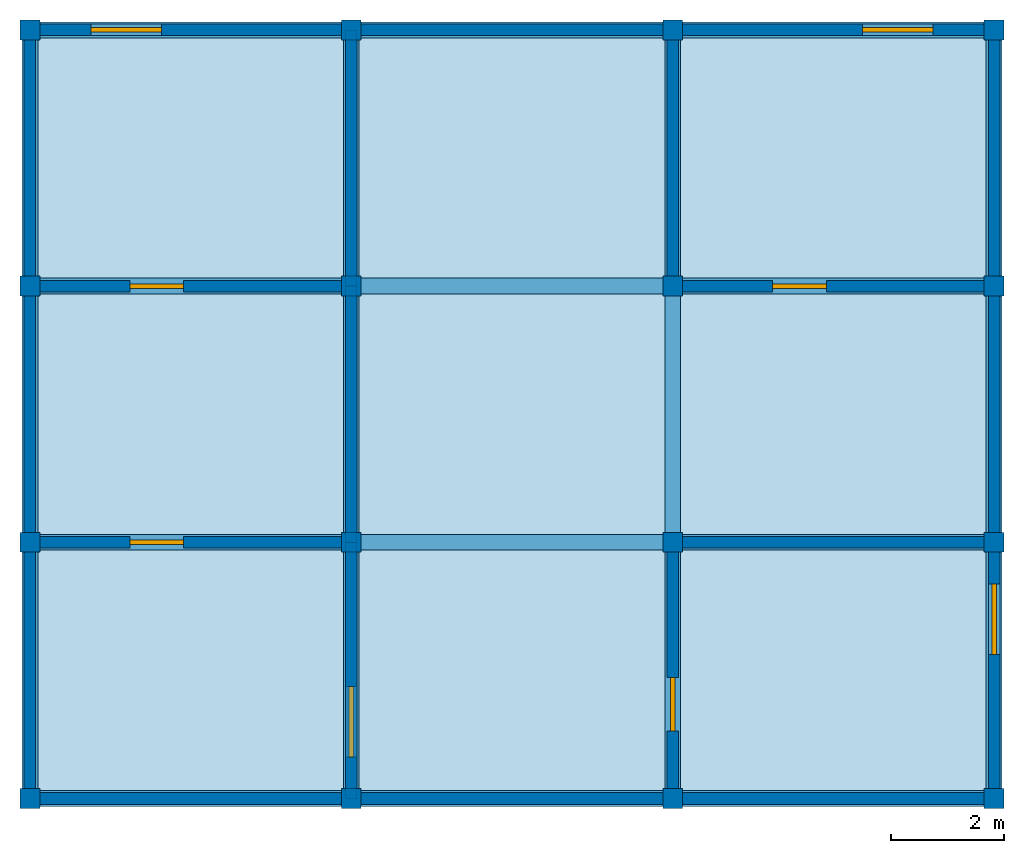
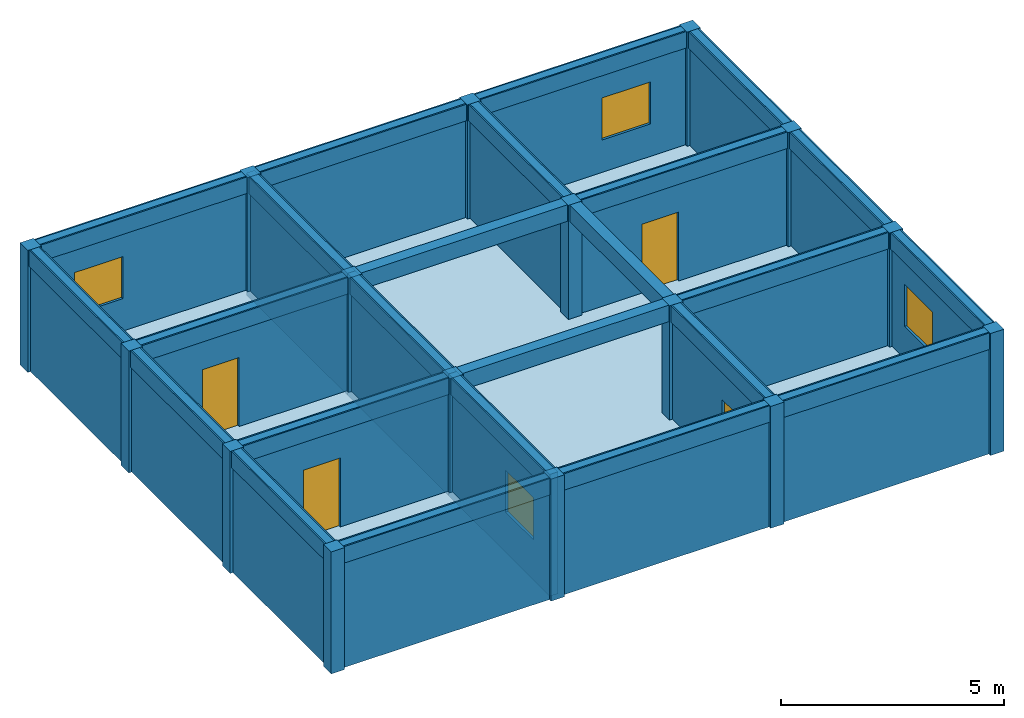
# One storey: 24 beams, 24 walls, 16 columns, 4 doors, 4 windows, 1 slab, 8 openings.
"""IFC4X3 building model written with IfcOpenShell, lengths in metres."""

from ifc_helpers import new_model, si_unit, frame, origin_with_axes, origin_2d, place, context, project, spatial, rectangle, extrude, material, element, fill, save


model = new_model("IFC4X3")

# Units and contexts
model_context = context("Model", 3, precision=1e-05, world=origin_with_axes())
ifc_project = project(units=[si_unit("LENGTHUNIT", "METRE"), si_unit("AREAUNIT", "SQUARE_METRE"), si_unit("VOLUMEUNIT", "CUBIC_METRE")], contexts=[model_context])

# Site, building, storey
site = spatial("IfcSite", under=ifc_project, Name="Valdivia Parcel", CompositionType="ELEMENT")
building = spatial("IfcBuilding", under=site, Name="Strata Block", CompositionType="ELEMENT")
storey = spatial("IfcBuildingStorey", under=building, Name="Level 2", CompositionType="ELEMENT", Elevation=3.33)

# Columns
ifc_material_1 = material(Name="Timber")
column_1_placement = place(None, frame((-8.525, -6.795, 3.335), z_axis=(0.0, 0.0, 1.0), x_axis=(1.0, 0.0, 0.0)))
element("IfcColumn", 1, at=column_1_placement, inside=storey, material=ifc_material_1, Name="Column 2.1", ObjectType="Corner Column", PredefinedType="COLUMN", context=model_context, shape_type="SweptSolid", body=[
    extrude(rectangle(XDim=0.35, YDim=0.35, at=origin_2d()), origin_with_axes(), (0.0, 0.0, 1.0), 3.335),
])
column_2_placement = place(None, frame((-8.525, -2.265, 3.335), z_axis=(0.0, 0.0, 1.0), x_axis=(1.0, 0.0, 0.0)))
element("IfcColumn", 2, at=column_2_placement, inside=storey, material=ifc_material_1, Name="Column 2.2", ObjectType="Facade Column", PredefinedType="COLUMN", context=model_context, shape_type="SweptSolid", body=[
    extrude(rectangle(XDim=0.35, YDim=0.35, at=origin_2d()), origin_with_axes(), (0.0, 0.0, 1.0), 3.335),
])
column_3_placement = place(None, frame((-8.525, 2.265, 3.335), z_axis=(0.0, 0.0, 1.0), x_axis=(1.0, 0.0, 0.0)))
element("IfcColumn", 3, at=column_3_placement, inside=storey, material=ifc_material_1, Name="Column 2.3", ObjectType="Structural Column", PredefinedType="NOTDEFINED", context=model_context, shape_type="SweptSolid", body=[
    extrude(rectangle(XDim=0.35, YDim=0.35, at=origin_2d()), origin_with_axes(), (0.0, 0.0, 1.0), 3.335),
])
column_4_placement = place(None, frame((-8.525, 6.795, 3.335), z_axis=(0.0, 0.0, 1.0), x_axis=(1.0, 0.0, 0.0)))
element("IfcColumn", 4, at=column_4_placement, inside=storey, material=ifc_material_1, Name="Column 2.4", ObjectType="Corner Column", PredefinedType="COLUMN", context=model_context, shape_type="SweptSolid", body=[
    extrude(rectangle(XDim=0.35, YDim=0.35, at=origin_2d()), origin_with_axes(), (0.0, 0.0, 1.0), 3.335),
])
for number, where, z_axis, x_axis, name in (
    (5, (-2.842, -6.795, 3.335), (0.0, 0.0, 1.0), (1.0, 0.0, 0.0), "Column 2.5"),
    (6, (-2.842, -2.265, 3.335), (0.0, 0.0, 1.0), (1.0, 0.0, 0.0), "Column 2.6"),
):
    element("IfcColumn", number, at=place(None, frame(where, z_axis=z_axis, x_axis=x_axis)), inside=storey, material=ifc_material_1, Name=name, ObjectType="Facade Column", PredefinedType="USERDEFINED", context=model_context, shape_type="SweptSolid", body=[
        extrude(rectangle(XDim=0.35, YDim=0.35, at=origin_2d()), origin_with_axes(), (0.0, 0.0, 1.0), 3.335),
    ])
column_5_placement = place(None, frame((-2.842, 2.265, 3.335), z_axis=(0.0, 0.0, 1.0), x_axis=(1.0, 0.0, 0.0)))
element("IfcColumn", 7, at=column_5_placement, inside=storey, material=ifc_material_1, Name="Column 2.7", ObjectType="Facade Column", PredefinedType="NOTDEFINED", context=model_context, shape_type="SweptSolid", body=[
    extrude(rectangle(XDim=0.35, YDim=0.35, at=origin_2d()), origin_with_axes(), (0.0, 0.0, 1.0), 3.335),
])
column_6_placement = place(None, frame((-2.842, 6.795, 3.335), z_axis=(0.0, 0.0, 1.0), x_axis=(1.0, 0.0, 0.0)))
element("IfcColumn", 8, at=column_6_placement, inside=storey, material=ifc_material_1, Name="Column 2.8", ObjectType="Corner Column", PredefinedType="PILASTER", context=model_context, shape_type="SweptSolid", body=[
    extrude(rectangle(XDim=0.35, YDim=0.35, at=origin_2d()), origin_with_axes(), (0.0, 0.0, 1.0), 3.335),
])
column_7_placement = place(None, frame((2.841, -6.795, 3.335), z_axis=(0.0, 0.0, 1.0), x_axis=(1.0, 0.0, 0.0)))
element("IfcColumn", 9, at=column_7_placement, inside=storey, material=ifc_material_1, Name="Column 2.9", ObjectType="Core Column", PredefinedType="PILASTER", context=model_context, shape_type="SweptSolid", body=[
    extrude(rectangle(XDim=0.35, YDim=0.35, at=origin_2d()), origin_with_axes(), (0.0, 0.0, 1.0), 3.335),
])
column_8_placement = place(None, frame((2.841, -2.265, 3.335), z_axis=(0.0, 0.0, 1.0), x_axis=(1.0, 0.0, 0.0)))
element("IfcColumn", 10, at=column_8_placement, inside=storey, material=ifc_material_1, Name="Column 2.10", ObjectType="Core Column", PredefinedType="USERDEFINED", context=model_context, shape_type="SweptSolid", body=[
    extrude(rectangle(XDim=0.35, YDim=0.35, at=origin_2d()), origin_with_axes(), (0.0, 0.0, 1.0), 3.335),
])
column_9_placement = place(None, frame((2.841, 2.265, 3.335), z_axis=(0.0, 0.0, 1.0), x_axis=(1.0, 0.0, 0.0)))
element("IfcColumn", 11, at=column_9_placement, inside=storey, material=ifc_material_1, Name="Column 2.11", ObjectType="Facade Column", PredefinedType="USERDEFINED", context=model_context, shape_type="SweptSolid", body=[
    extrude(rectangle(XDim=0.35, YDim=0.35, at=origin_2d()), origin_with_axes(), (0.0, 0.0, 1.0), 3.335),
])
column_10_placement = place(None, frame((2.841, 6.795, 3.335), z_axis=(0.0, 0.0, 1.0), x_axis=(1.0, 0.0, 0.0)))
element("IfcColumn", 12, at=column_10_placement, inside=storey, material=ifc_material_1, Name="Column 2.12", ObjectType="Structural Column", PredefinedType="COLUMN", context=model_context, shape_type="SweptSolid", body=[
    extrude(rectangle(XDim=0.35, YDim=0.35, at=origin_2d()), origin_with_axes(), (0.0, 0.0, 1.0), 3.335),
])
column_11_placement = place(None, frame((8.524, -6.795, 3.335), z_axis=(0.0, 0.0, 1.0), x_axis=(1.0, 0.0, 0.0)))
element("IfcColumn", 13, at=column_11_placement, inside=storey, material=ifc_material_1, Name="Column 2.13", ObjectType="Facade Column", PredefinedType="USERDEFINED", context=model_context, shape_type="SweptSolid", body=[
    extrude(rectangle(XDim=0.35, YDim=0.35, at=origin_2d()), origin_with_axes(), (0.0, 0.0, 1.0), 3.335),
])
column_12_placement = place(None, frame((8.524, -2.265, 3.335), z_axis=(0.0, 0.0, 1.0), x_axis=(1.0, 0.0, 0.0)))
element("IfcColumn", 14, at=column_12_placement, inside=storey, material=ifc_material_1, Name="Column 2.14", ObjectType="Structural Column", PredefinedType="PILASTER", context=model_context, shape_type="SweptSolid", body=[
    extrude(rectangle(XDim=0.35, YDim=0.35, at=origin_2d()), origin_with_axes(), (0.0, 0.0, 1.0), 3.335),
])
column_13_placement = place(None, frame((8.524, 2.265, 3.335), z_axis=(0.0, 0.0, 1.0), x_axis=(1.0, 0.0, 0.0)))
element("IfcColumn", 15, at=column_13_placement, inside=storey, material=ifc_material_1, Name="Column 2.15", ObjectType="Core Column", PredefinedType="USERDEFINED", context=model_context, shape_type="SweptSolid", body=[
    extrude(rectangle(XDim=0.35, YDim=0.35, at=origin_2d()), origin_with_axes(), (0.0, 0.0, 1.0), 3.335),
])
column_14_placement = place(None, frame((8.524, 6.795, 3.335), z_axis=(0.0, 0.0, 1.0), x_axis=(1.0, 0.0, 0.0)))
element("IfcColumn", 16, at=column_14_placement, inside=storey, material=ifc_material_1, Name="Column 2.16", ObjectType="Structural Column", PredefinedType="PILASTER", context=model_context, shape_type="SweptSolid", body=[
    extrude(rectangle(XDim=0.35, YDim=0.35, at=origin_2d()), origin_with_axes(), (0.0, 0.0, 1.0), 3.335),
])

# Beams
ifc_material_2 = material(Name="Concrete")
beam_1_placement = place(None, frame((-5.684, -6.795, 6.22), z_axis=(0.0, 0.0, 1.0), x_axis=(1.0, 0.0, 0.0)))
element("IfcBeam", 17, at=beam_1_placement, inside=storey, material=ifc_material_2, Name="Beam 2.1", ObjectType="Transfer Beam", PredefinedType="NOTDEFINED", context=model_context, shape_type="SweptSolid", body=[
    extrude(rectangle(XDim=5.683, YDim=0.28, at=origin_2d()), origin_with_axes(), (0.0, 0.0, 1.0), 0.45),
])
beam_2_placement = place(None, frame((0.0, -6.795, 6.22), z_axis=(0.0, 0.0, 1.0), x_axis=(1.0, 0.0, 0.0)))
element("IfcBeam", 18, at=beam_2_placement, inside=storey, material=ifc_material_2, Name="Beam 2.2", ObjectType="Rafter Beam", PredefinedType="NOTDEFINED", context=model_context, shape_type="SweptSolid", body=[
    extrude(rectangle(XDim=5.683, YDim=0.28, at=origin_2d()), origin_with_axes(), (0.0, 0.0, 1.0), 0.45),
])
beam_3_placement = place(None, frame((5.682, -6.795, 6.22), z_axis=(0.0, 0.0, 1.0), x_axis=(1.0, 0.0, 0.0)))
element("IfcBeam", 19, at=beam_3_placement, inside=storey, material=ifc_material_2, Name="Beam 2.3", ObjectType="Secondary Beam", PredefinedType="T_BEAM", context=model_context, shape_type="SweptSolid", body=[
    extrude(rectangle(XDim=5.683, YDim=0.28, at=origin_2d()), origin_with_axes(), (0.0, 0.0, 1.0), 0.45),
])
beam_4_placement = place(None, frame((-5.684, -2.265, 6.22), z_axis=(0.0, 0.0, 1.0), x_axis=(1.0, 0.0, 0.0)))
element("IfcBeam", 20, at=beam_4_placement, inside=storey, material=ifc_material_2, Name="Beam 2.4", ObjectType="Transfer Beam", PredefinedType="BEAM", context=model_context, shape_type="SweptSolid", body=[
    extrude(rectangle(XDim=5.683, YDim=0.28, at=origin_2d()), origin_with_axes(), (0.0, 0.0, 1.0), 0.45),
])
beam_5_placement = place(None, frame((0.0, -2.265, 6.22), z_axis=(0.0, 0.0, 1.0), x_axis=(1.0, 0.0, 0.0)))
element("IfcBeam", 21, at=beam_5_placement, inside=storey, material=ifc_material_2, Name="Beam 2.5", ObjectType="Ridge Beam", PredefinedType="JOIST", context=model_context, shape_type="SweptSolid", body=[
    extrude(rectangle(XDim=5.683, YDim=0.28, at=origin_2d()), origin_with_axes(), (0.0, 0.0, 1.0), 0.45),
])
beam_6_placement = place(None, frame((5.682, -2.265, 6.22), z_axis=(0.0, 0.0, 1.0), x_axis=(1.0, 0.0, 0.0)))
element("IfcBeam", 22, at=beam_6_placement, inside=storey, material=ifc_material_2, Name="Beam 2.6", ObjectType="Transfer Beam", PredefinedType="HOLLOWCORE", context=model_context, shape_type="SweptSolid", body=[
    extrude(rectangle(XDim=5.683, YDim=0.28, at=origin_2d()), origin_with_axes(), (0.0, 0.0, 1.0), 0.45),
])
beam_7_placement = place(None, frame((-5.684, 2.265, 6.22), z_axis=(0.0, 0.0, 1.0), x_axis=(1.0, 0.0, 0.0)))
element("IfcBeam", 23, at=beam_7_placement, inside=storey, material=ifc_material_2, Name="Beam 2.7", ObjectType="Primary Beam", PredefinedType="SPANDREL", context=model_context, shape_type="SweptSolid", body=[
    extrude(rectangle(XDim=5.683, YDim=0.28, at=origin_2d()), origin_with_axes(), (0.0, 0.0, 1.0), 0.45),
])
beam_8_placement = place(None, frame((0.0, 2.265, 6.22), z_axis=(0.0, 0.0, 1.0), x_axis=(1.0, 0.0, 0.0)))
element("IfcBeam", 24, at=beam_8_placement, inside=storey, material=ifc_material_2, Name="Beam 2.8", ObjectType="Ridge Beam", PredefinedType="T_BEAM", context=model_context, shape_type="SweptSolid", body=[
    extrude(rectangle(XDim=5.683, YDim=0.28, at=origin_2d()), origin_with_axes(), (0.0, 0.0, 1.0), 0.45),
])
beam_9_placement = place(None, frame((5.682, 2.265, 6.22), z_axis=(0.0, 0.0, 1.0), x_axis=(1.0, 0.0, 0.0)))
element("IfcBeam", 25, at=beam_9_placement, inside=storey, material=ifc_material_2, Name="Beam 2.9", ObjectType="Rafter Beam", PredefinedType="BEAM", context=model_context, shape_type="SweptSolid", body=[
    extrude(rectangle(XDim=5.683, YDim=0.28, at=origin_2d()), origin_with_axes(), (0.0, 0.0, 1.0), 0.45),
])
beam_10_placement = place(None, frame((-5.684, 6.795, 6.22), z_axis=(0.0, 0.0, 1.0), x_axis=(1.0, 0.0, 0.0)))
element("IfcBeam", 26, at=beam_10_placement, inside=storey, material=ifc_material_2, Name="Beam 2.10", ObjectType="Rafter Beam", PredefinedType="T_BEAM", context=model_context, shape_type="SweptSolid", body=[
    extrude(rectangle(XDim=5.683, YDim=0.28, at=origin_2d()), origin_with_axes(), (0.0, 0.0, 1.0), 0.45),
])
beam_11_placement = place(None, frame((0.0, 6.795, 6.22), z_axis=(0.0, 0.0, 1.0), x_axis=(1.0, 0.0, 0.0)))
element("IfcBeam", 27, at=beam_11_placement, inside=storey, material=ifc_material_2, Name="Beam 2.11", ObjectType="Ridge Beam", PredefinedType="LINTEL", context=model_context, shape_type="SweptSolid", body=[
    extrude(rectangle(XDim=5.683, YDim=0.28, at=origin_2d()), origin_with_axes(), (0.0, 0.0, 1.0), 0.45),
])
beam_12_placement = place(None, frame((5.682, 6.795, 6.22), z_axis=(0.0, 0.0, 1.0), x_axis=(1.0, 0.0, 0.0)))
element("IfcBeam", 28, at=beam_12_placement, inside=storey, material=ifc_material_2, Name="Beam 2.12", ObjectType="Rafter Beam", PredefinedType="BEAM", context=model_context, shape_type="SweptSolid", body=[
    extrude(rectangle(XDim=5.683, YDim=0.28, at=origin_2d()), origin_with_axes(), (0.0, 0.0, 1.0), 0.45),
])
beam_13_placement = place(None, frame((-8.525, -4.53, 6.22), z_axis=(0.0, 0.0, 1.0), x_axis=(0.0, 1.0, 0.0)))
element("IfcBeam", 29, at=beam_13_placement, inside=storey, material=ifc_material_2, Name="Beam 2.13", ObjectType="Secondary Beam", PredefinedType="LINTEL", context=model_context, shape_type="SweptSolid", body=[
    extrude(rectangle(XDim=4.53, YDim=0.28, at=origin_2d()), origin_with_axes(), (0.0, 0.0, 1.0), 0.45),
])
beam_14_placement = place(None, frame((-8.525, 0.0, 6.22), z_axis=(0.0, 0.0, 1.0), x_axis=(0.0, 1.0, 0.0)))
element("IfcBeam", 30, at=beam_14_placement, inside=storey, material=ifc_material_2, Name="Beam 2.14", ObjectType="Primary Beam", PredefinedType="BEAM", context=model_context, shape_type="SweptSolid", body=[
    extrude(rectangle(XDim=4.53, YDim=0.28, at=origin_2d()), origin_with_axes(), (0.0, 0.0, 1.0), 0.45),
])
beam_15_placement = place(None, frame((-8.525, 4.53, 6.22), z_axis=(0.0, 0.0, 1.0), x_axis=(0.0, 1.0, 0.0)))
element("IfcBeam", 31, at=beam_15_placement, inside=storey, material=ifc_material_2, Name="Beam 2.15", ObjectType="Ridge Beam", PredefinedType="JOIST", context=model_context, shape_type="SweptSolid", body=[
    extrude(rectangle(XDim=4.53, YDim=0.28, at=origin_2d()), origin_with_axes(), (0.0, 0.0, 1.0), 0.45),
])
beam_16_placement = place(None, frame((-2.842, -4.53, 6.22), z_axis=(0.0, 0.0, 1.0), x_axis=(0.0, 1.0, 0.0)))
element("IfcBeam", 32, at=beam_16_placement, inside=storey, material=ifc_material_2, Name="Beam 2.16", ObjectType="Transfer Beam", PredefinedType="BEAM", context=model_context, shape_type="SweptSolid", body=[
    extrude(rectangle(XDim=4.53, YDim=0.28, at=origin_2d()), origin_with_axes(), (0.0, 0.0, 1.0), 0.45),
])
beam_17_placement = place(None, frame((-2.842, 0.0, 6.22), z_axis=(0.0, 0.0, 1.0), x_axis=(0.0, 1.0, 0.0)))
element("IfcBeam", 33, at=beam_17_placement, inside=storey, material=ifc_material_2, Name="Beam 2.17", ObjectType="Rafter Beam", PredefinedType="LINTEL", context=model_context, shape_type="SweptSolid", body=[
    extrude(rectangle(XDim=4.53, YDim=0.28, at=origin_2d()), origin_with_axes(), (0.0, 0.0, 1.0), 0.45),
])
beam_18_placement = place(None, frame((-2.842, 4.53, 6.22), z_axis=(0.0, 0.0, 1.0), x_axis=(0.0, 1.0, 0.0)))
element("IfcBeam", 34, at=beam_18_placement, inside=storey, material=ifc_material_2, Name="Beam 2.18", ObjectType="Rafter Beam", PredefinedType="USERDEFINED", context=model_context, shape_type="SweptSolid", body=[
    extrude(rectangle(XDim=4.53, YDim=0.28, at=origin_2d()), origin_with_axes(), (0.0, 0.0, 1.0), 0.45),
])
beam_19_placement = place(None, frame((2.841, -4.53, 6.22), z_axis=(0.0, 0.0, 1.0), x_axis=(0.0, 1.0, 0.0)))
element("IfcBeam", 35, at=beam_19_placement, inside=storey, material=ifc_material_2, Name="Beam 2.19", ObjectType="Rafter Beam", PredefinedType="LINTEL", context=model_context, shape_type="SweptSolid", body=[
    extrude(rectangle(XDim=4.53, YDim=0.28, at=origin_2d()), origin_with_axes(), (0.0, 0.0, 1.0), 0.45),
])
beam_20_placement = place(None, frame((2.841, 0.0, 6.22), z_axis=(0.0, 0.0, 1.0), x_axis=(0.0, 1.0, 0.0)))
element("IfcBeam", 36, at=beam_20_placement, inside=storey, material=ifc_material_2, Name="Beam 2.20", ObjectType="Rafter Beam", PredefinedType="HOLLOWCORE", context=model_context, shape_type="SweptSolid", body=[
    extrude(rectangle(XDim=4.53, YDim=0.28, at=origin_2d()), origin_with_axes(), (0.0, 0.0, 1.0), 0.45),
])
beam_21_placement = place(None, frame((2.841, 4.53, 6.22), z_axis=(0.0, 0.0, 1.0), x_axis=(0.0, 1.0, 0.0)))
element("IfcBeam", 37, at=beam_21_placement, inside=storey, material=ifc_material_2, Name="Beam 2.21", ObjectType="Rafter Beam", PredefinedType="SPANDREL", context=model_context, shape_type="SweptSolid", body=[
    extrude(rectangle(XDim=4.53, YDim=0.28, at=origin_2d()), origin_with_axes(), (0.0, 0.0, 1.0), 0.45),
])
beam_22_placement = place(None, frame((8.524, -4.53, 6.22), z_axis=(0.0, 0.0, 1.0), x_axis=(0.0, 1.0, 0.0)))
element("IfcBeam", 38, at=beam_22_placement, inside=storey, material=ifc_material_2, Name="Beam 2.22", ObjectType="Primary Beam", PredefinedType="NOTDEFINED", context=model_context, shape_type="SweptSolid", body=[
    extrude(rectangle(XDim=4.53, YDim=0.28, at=origin_2d()), origin_with_axes(), (0.0, 0.0, 1.0), 0.45),
])
beam_23_placement = place(None, frame((8.524, 0.0, 6.22), z_axis=(0.0, 0.0, 1.0), x_axis=(0.0, 1.0, 0.0)))
element("IfcBeam", 39, at=beam_23_placement, inside=storey, material=ifc_material_2, Name="Beam 2.23", ObjectType="Primary Beam", PredefinedType="SPANDREL", context=model_context, shape_type="SweptSolid", body=[
    extrude(rectangle(XDim=4.53, YDim=0.28, at=origin_2d()), origin_with_axes(), (0.0, 0.0, 1.0), 0.45),
])
beam_24_placement = place(None, frame((8.524, 4.53, 6.22), z_axis=(0.0, 0.0, 1.0), x_axis=(0.0, 1.0, 0.0)))
element("IfcBeam", 40, at=beam_24_placement, inside=storey, material=ifc_material_2, Name="Beam 2.24", ObjectType="Primary Beam", PredefinedType="T_BEAM", context=model_context, shape_type="SweptSolid", body=[
    extrude(rectangle(XDim=4.53, YDim=0.28, at=origin_2d()), origin_with_axes(), (0.0, 0.0, 1.0), 0.45),
])

# Slab
ifc_material_3 = material(Name="Composite")
slab_placement = place(None, frame((0.0, 0.0, 3.33), z_axis=(0.0, 0.0, 1.0), x_axis=(1.0, 0.0, 0.0)))
element("IfcSlab", 41, at=slab_placement, inside=storey, material=ifc_material_3, Name="Slab 2", ObjectType="Floor Slab", PredefinedType="FLOOR", context=model_context, shape_type="SweptSolid", body=[
    extrude(rectangle(XDim=17.05, YDim=13.59, at=origin_2d()), origin_with_axes(), (0.0, 0.0, 1.0), 0.22),
])

# Wall, opening, door
ifc_material_4 = material(Name="CLT")
wall_1_placement = place(None, frame((-5.684, -2.265, 3.335), z_axis=(0.0, 0.0, 1.0), x_axis=(1.0, 0.0, 0.0)))
wall_1 = element("IfcWall", 42, at=wall_1_placement, inside=storey, material=ifc_material_4, Name="Wall 2.1", ObjectType="Corridor Partition", PredefinedType="SHEAR", context=model_context, shape_type="SweptSolid", body=[
    extrude(rectangle(XDim=5.683, YDim=0.205866, at=origin_2d()), origin_with_axes(), (0.0, 0.0, 1.0), 3.335),
])
opening_1_placement = place(None, frame((-6.284, -2.265, 3.335), z_axis=(0.0, 0.0, 1.0), x_axis=(1.0, 0.0, 0.0)))
opening_1 = element("IfcOpeningElement", 43, at=opening_1_placement, cuts=wall_1, Name="Door opening 2.1", ObjectType="Door Opening", PredefinedType="OPENING", context=model_context, shape_type="SweptSolid", body=[
    extrude(rectangle(XDim=0.95, YDim=0.285866, at=origin_2d()), origin_with_axes(), (0.0, 0.0, 1.0), 2.1),
])
door_1_placement = place(None, frame((-6.284, -2.265, 3.335), z_axis=(0.0, 0.0, 1.0), x_axis=(1.0, 0.0, 0.0)))
door_1 = element("IfcDoor", 44, at=door_1_placement, inside=storey, Name="Door 2.1", ObjectType="Entry Door", OverallHeight=2.1, OverallWidth=0.95, context=model_context, shape_type="SweptSolid", body=[
    extrude(rectangle(XDim=0.95, YDim=0.08, at=origin_2d()), origin_with_axes(), (0.0, 0.0, 1.0), 2.1),
])
fill(opening_1, door_1)

# Wall, opening, window
wall_2_placement = place(None, frame((-2.8425, -4.53, 3.335), z_axis=(0.0, 0.0, 1.0), x_axis=(0.0, 1.0, 0.0)))
wall_2 = element("IfcWall", 45, at=wall_2_placement, inside=storey, material=ifc_material_4, Name="Wall 2.2", ObjectType="Exterior Wall", PredefinedType="NOTDEFINED", context=model_context, shape_type="SweptSolid", body=[
    extrude(rectangle(XDim=4.53, YDim=0.205866, at=origin_2d()), origin_with_axes(), (0.0, 0.0, 1.0), 3.335),
])
opening_2_placement = place(None, frame((-2.843, -5.436, 4.435), z_axis=(0.0, 0.0, 1.0), x_axis=(0.0, 1.0, 0.0)))
opening_2 = element("IfcOpeningElement", 46, at=opening_2_placement, cuts=wall_2, Name="Window opening 2.2", ObjectType="Window Opening", PredefinedType="OPENING", context=model_context, shape_type="SweptSolid", body=[
    extrude(rectangle(XDim=1.25, YDim=0.285866, at=origin_2d()), origin_with_axes(), (0.0, 0.0, 1.0), 1.15),
])
window_1_placement = place(None, frame((-2.843, -5.436, 4.435), z_axis=(0.0, 0.0, 1.0), x_axis=(0.0, 1.0, 0.0)))
window_1 = element("IfcWindow", 47, at=window_1_placement, inside=storey, Name="Window 2.2", ObjectType="Curtain Window", OverallHeight=1.15, OverallWidth=1.25, context=model_context, shape_type="SweptSolid", body=[
    extrude(rectangle(XDim=1.25, YDim=0.08, at=origin_2d()), origin_with_axes(), (0.0, 0.0, 1.0), 1.15),
])
fill(opening_2, window_1)

# Walls
wall_3_placement = place(None, frame((-5.684, -6.795, 3.335), z_axis=(0.0, 0.0, 1.0), x_axis=(1.0, 0.0, 0.0)))
element("IfcWall", 48, at=wall_3_placement, inside=storey, material=ifc_material_2, Name="Wall 2.3", ObjectType="Exterior Wall", PredefinedType="MOVABLE", context=model_context, shape_type="SweptSolid", body=[
    extrude(rectangle(XDim=5.683, YDim=0.205866, at=origin_2d()), origin_with_axes(), (0.0, 0.0, 1.0), 3.335),
])
wall_4_placement = place(None, frame((-8.5255, -4.53, 3.335), z_axis=(0.0, 0.0, 1.0), x_axis=(0.0, 1.0, 0.0)))
element("IfcWall", 49, at=wall_4_placement, inside=storey, material=ifc_material_4, Name="Wall 2.4", ObjectType="Exterior Wall", PredefinedType="PARAPET", context=model_context, shape_type="SweptSolid", body=[
    extrude(rectangle(XDim=4.53, YDim=0.205866, at=origin_2d()), origin_with_axes(), (0.0, 0.0, 1.0), 3.335),
])

# Wall, opening, door
wall_5_placement = place(None, frame((2.8405, -4.53, 3.335), z_axis=(0.0, 0.0, 1.0), x_axis=(0.0, 1.0, 0.0)))
wall_5 = element("IfcWall", 50, at=wall_5_placement, inside=storey, material=ifc_material_4, Name="Wall 2.5", ObjectType="Corridor Partition", PredefinedType="NOTDEFINED", context=model_context, shape_type="SweptSolid", body=[
    extrude(rectangle(XDim=4.53, YDim=0.205866, at=origin_2d()), origin_with_axes(), (0.0, 0.0, 1.0), 3.335),
])
opening_3_placement = place(None, frame((2.841, -5.13, 3.335), z_axis=(0.0, 0.0, 1.0), x_axis=(0.0, 1.0, 0.0)))
opening_3 = element("IfcOpeningElement", 51, at=opening_3_placement, cuts=wall_5, Name="Door opening 2.3", ObjectType="Door Opening", PredefinedType="OPENING", context=model_context, shape_type="SweptSolid", body=[
    extrude(rectangle(XDim=0.95, YDim=0.285866, at=origin_2d()), origin_with_axes(), (0.0, 0.0, 1.0), 2.1),
])
door_2_placement = place(None, frame((2.841, -5.13, 3.335), z_axis=(0.0, 0.0, 1.0), x_axis=(0.0, 1.0, 0.0)))
door_2 = element("IfcDoor", 52, at=door_2_placement, inside=storey, Name="Door 2.3", ObjectType="Entry Door", OverallHeight=2.1, OverallWidth=0.95, context=model_context, shape_type="SweptSolid", body=[
    extrude(rectangle(XDim=0.95, YDim=0.08, at=origin_2d()), origin_with_axes(), (0.0, 0.0, 1.0), 2.1),
])
fill(opening_3, door_2)

# Walls
ifc_material_5 = material(Name="Gypsum")
wall_6_placement = place(None, frame((-0.001, -6.795, 3.335), z_axis=(0.0, 0.0, 1.0), x_axis=(1.0, 0.0, 0.0)))
element("IfcWall", 53, at=wall_6_placement, inside=storey, material=ifc_material_5, Name="Wall 2.6", ObjectType="Exterior Wall", PredefinedType="USERDEFINED", context=model_context, shape_type="SweptSolid", body=[
    extrude(rectangle(XDim=5.683, YDim=0.205866, at=origin_2d()), origin_with_axes(), (0.0, 0.0, 1.0), 3.335),
])
wall_7_placement = place(None, frame((-2.8425, -4.53, 3.335), z_axis=(0.0, 0.0, 1.0), x_axis=(0.0, 1.0, 0.0)))
element("IfcWall", 54, at=wall_7_placement, inside=storey, material=ifc_material_5, Name="Wall 2.7", ObjectType="Exterior Wall", PredefinedType="MOVABLE", context=model_context, shape_type="SweptSolid", body=[
    extrude(rectangle(XDim=4.53, YDim=0.205866, at=origin_2d()), origin_with_axes(), (0.0, 0.0, 1.0), 3.335),
])
ifc_material_6 = material(Name="Brick")
wall_8_placement = place(None, frame((5.682, -2.265, 3.335), z_axis=(0.0, 0.0, 1.0), x_axis=(1.0, 0.0, 0.0)))
element("IfcWall", 55, at=wall_8_placement, inside=storey, material=ifc_material_6, Name="Wall 2.8", ObjectType="Corridor Partition", PredefinedType="NOTDEFINED", context=model_context, shape_type="SweptSolid", body=[
    extrude(rectangle(XDim=5.683, YDim=0.205866, at=origin_2d()), origin_with_axes(), (0.0, 0.0, 1.0), 3.335),
])

# Wall, opening, window
wall_9_placement = place(None, frame((8.5235, -4.53, 3.335), z_axis=(0.0, 0.0, 1.0), x_axis=(0.0, 1.0, 0.0)))
wall_9 = element("IfcWall", 56, at=wall_9_placement, inside=storey, material=ifc_material_5, Name="Wall 2.9", ObjectType="Exterior Wall", PredefinedType="SOLIDWALL", context=model_context, shape_type="SweptSolid", body=[
    extrude(rectangle(XDim=4.53, YDim=0.205866, at=origin_2d()), origin_with_axes(), (0.0, 0.0, 1.0), 3.335),
])
opening_4_placement = place(None, frame((8.524, -3.624, 4.435), z_axis=(0.0, 0.0, 1.0), x_axis=(0.0, 1.0, 0.0)))
opening_4 = element("IfcOpeningElement", 57, at=opening_4_placement, cuts=wall_9, Name="Window opening 2.4", ObjectType="Window Opening", PredefinedType="OPENING", context=model_context, shape_type="SweptSolid", body=[
    extrude(rectangle(XDim=1.25, YDim=0.285866, at=origin_2d()), origin_with_axes(), (0.0, 0.0, 1.0), 1.15),
])
window_2_placement = place(None, frame((8.524, -3.624, 4.435), z_axis=(0.0, 0.0, 1.0), x_axis=(0.0, 1.0, 0.0)))
window_2 = element("IfcWindow", 58, at=window_2_placement, inside=storey, Name="Window 2.4", ObjectType="Sliding Window", OverallHeight=1.15, OverallWidth=1.25, context=model_context, shape_type="SweptSolid", body=[
    extrude(rectangle(XDim=1.25, YDim=0.08, at=origin_2d()), origin_with_axes(), (0.0, 0.0, 1.0), 1.15),
])
fill(opening_4, window_2)

# Wall
wall_10_placement = place(None, frame((5.682, -6.795, 3.335), z_axis=(0.0, 0.0, 1.0), x_axis=(1.0, 0.0, 0.0)))
element("IfcWall", 59, at=wall_10_placement, inside=storey, material=ifc_material_5, Name="Wall 2.10", ObjectType="Exterior Wall", PredefinedType="MOVABLE", context=model_context, shape_type="SweptSolid", body=[
    extrude(rectangle(XDim=5.683, YDim=0.205866, at=origin_2d()), origin_with_axes(), (0.0, 0.0, 1.0), 3.335),
])

# Wall, opening, door
wall_11_placement = place(None, frame((-5.684, 2.265, 3.335), z_axis=(0.0, 0.0, 1.0), x_axis=(1.0, 0.0, 0.0)))
wall_11 = element("IfcWall", 60, at=wall_11_placement, inside=storey, material=ifc_material_2, Name="Wall 2.11", ObjectType="Corridor Partition", PredefinedType="SOLIDWALL", context=model_context, shape_type="SweptSolid", body=[
    extrude(rectangle(XDim=5.683, YDim=0.205866, at=origin_2d()), origin_with_axes(), (0.0, 0.0, 1.0), 3.335),
])
opening_5_placement = place(None, frame((-6.284, 2.265, 3.335), z_axis=(0.0, 0.0, 1.0), x_axis=(1.0, 0.0, 0.0)))
opening_5 = element("IfcOpeningElement", 61, at=opening_5_placement, cuts=wall_11, Name="Door opening 2.5", ObjectType="Door Opening", PredefinedType="OPENING", context=model_context, shape_type="SweptSolid", body=[
    extrude(rectangle(XDim=0.95, YDim=0.285866, at=origin_2d()), origin_with_axes(), (0.0, 0.0, 1.0), 2.1),
])
door_3_placement = place(None, frame((-6.284, 2.265, 3.335), z_axis=(0.0, 0.0, 1.0), x_axis=(1.0, 0.0, 0.0)))
door_3 = element("IfcDoor", 62, at=door_3_placement, inside=storey, Name="Door 2.5", ObjectType="Interior Door", OverallHeight=2.1, OverallWidth=0.95, context=model_context, shape_type="SweptSolid", body=[
    extrude(rectangle(XDim=0.95, YDim=0.08, at=origin_2d()), origin_with_axes(), (0.0, 0.0, 1.0), 2.1),
])
fill(opening_5, door_3)

# Walls
wall_12_placement = place(None, frame((-2.8425, 0.0, 3.335), z_axis=(0.0, 0.0, 1.0), x_axis=(0.0, 1.0, 0.0)))
element("IfcWall", 63, at=wall_12_placement, inside=storey, material=ifc_material_6, Name="Wall 2.12", ObjectType="Exterior Wall", PredefinedType="SHEAR", context=model_context, shape_type="SweptSolid", body=[
    extrude(rectangle(XDim=4.53, YDim=0.205866, at=origin_2d()), origin_with_axes(), (0.0, 0.0, 1.0), 3.335),
])
wall_13_placement = place(None, frame((-8.5255, 0.0, 3.335), z_axis=(0.0, 0.0, 1.0), x_axis=(0.0, 1.0, 0.0)))
element("IfcWall", 64, at=wall_13_placement, inside=storey, material=ifc_material_2, Name="Wall 2.13", ObjectType="Exterior Wall", PredefinedType="PARTITIONING", context=model_context, shape_type="SweptSolid", body=[
    extrude(rectangle(XDim=4.53, YDim=0.205866, at=origin_2d()), origin_with_axes(), (0.0, 0.0, 1.0), 3.335),
])
wall_14_placement = place(None, frame((-2.8425, 0.0, 3.335), z_axis=(0.0, 0.0, 1.0), x_axis=(0.0, 1.0, 0.0)))
element("IfcWall", 65, at=wall_14_placement, inside=storey, material=ifc_material_6, Name="Wall 2.14", ObjectType="Exterior Wall", PredefinedType="POLYGONAL", context=model_context, shape_type="SweptSolid", body=[
    extrude(rectangle(XDim=4.53, YDim=0.205866, at=origin_2d()), origin_with_axes(), (0.0, 0.0, 1.0), 3.335),
])

# Wall, opening, door
wall_15_placement = place(None, frame((5.682, 2.265, 3.335), z_axis=(0.0, 0.0, 1.0), x_axis=(1.0, 0.0, 0.0)))
wall_15 = element("IfcWall", 66, at=wall_15_placement, inside=storey, material=ifc_material_4, Name="Wall 2.15", ObjectType="Corridor Partition", PredefinedType="USERDEFINED", context=model_context, shape_type="SweptSolid", body=[
    extrude(rectangle(XDim=5.683, YDim=0.205866, at=origin_2d()), origin_with_axes(), (0.0, 0.0, 1.0), 3.335),
])
opening_6_placement = place(None, frame((5.082, 2.265, 3.335), z_axis=(0.0, 0.0, 1.0), x_axis=(1.0, 0.0, 0.0)))
opening_6 = element("IfcOpeningElement", 67, at=opening_6_placement, cuts=wall_15, Name="Door opening 2.7", ObjectType="Door Opening", PredefinedType="OPENING", context=model_context, shape_type="SweptSolid", body=[
    extrude(rectangle(XDim=0.95, YDim=0.285866, at=origin_2d()), origin_with_axes(), (0.0, 0.0, 1.0), 2.1),
])
door_4_placement = place(None, frame((5.082, 2.265, 3.335), z_axis=(0.0, 0.0, 1.0), x_axis=(1.0, 0.0, 0.0)))
door_4 = element("IfcDoor", 68, at=door_4_placement, inside=storey, Name="Door 2.7", ObjectType="Fire Door", OverallHeight=2.1, OverallWidth=0.95, context=model_context, shape_type="SweptSolid", body=[
    extrude(rectangle(XDim=0.95, YDim=0.08, at=origin_2d()), origin_with_axes(), (0.0, 0.0, 1.0), 2.1),
])
fill(opening_6, door_4)

# Wall
wall_16_placement = place(None, frame((8.5235, 0.0, 3.335), z_axis=(0.0, 0.0, 1.0), x_axis=(0.0, 1.0, 0.0)))
element("IfcWall", 69, at=wall_16_placement, inside=storey, material=ifc_material_5, Name="Wall 2.16", ObjectType="Exterior Wall", PredefinedType="POLYGONAL", context=model_context, shape_type="SweptSolid", body=[
    extrude(rectangle(XDim=4.53, YDim=0.205866, at=origin_2d()), origin_with_axes(), (0.0, 0.0, 1.0), 3.335),
])

# Wall, opening, window
wall_17_placement = place(None, frame((-5.684, 6.795, 3.335), z_axis=(0.0, 0.0, 1.0), x_axis=(1.0, 0.0, 0.0)))
wall_17 = element("IfcWall", 70, at=wall_17_placement, inside=storey, material=ifc_material_5, Name="Wall 2.17", ObjectType="Exterior Wall", PredefinedType="STANDARD", context=model_context, shape_type="SweptSolid", body=[
    extrude(rectangle(XDim=5.683, YDim=0.205866, at=origin_2d()), origin_with_axes(), (0.0, 0.0, 1.0), 3.335),
])
opening_7_placement = place(None, frame((-6.821, 6.795, 4.435), z_axis=(0.0, 0.0, 1.0), x_axis=(1.0, 0.0, 0.0)))
opening_7 = element("IfcOpeningElement", 71, at=opening_7_placement, cuts=wall_17, Name="Window opening 2.6", ObjectType="Window Opening", PredefinedType="OPENING", context=model_context, shape_type="SweptSolid", body=[
    extrude(rectangle(XDim=1.25, YDim=0.285866, at=origin_2d()), origin_with_axes(), (0.0, 0.0, 1.0), 1.15),
])
window_3_placement = place(None, frame((-6.821, 6.795, 4.435), z_axis=(0.0, 0.0, 1.0), x_axis=(1.0, 0.0, 0.0)))
window_3 = element("IfcWindow", 72, at=window_3_placement, inside=storey, Name="Window 2.6", ObjectType="Curtain Window", OverallHeight=1.15, OverallWidth=1.25, context=model_context, shape_type="SweptSolid", body=[
    extrude(rectangle(XDim=1.25, YDim=0.08, at=origin_2d()), origin_with_axes(), (0.0, 0.0, 1.0), 1.15),
])
fill(opening_7, window_3)

# Walls
wall_18_placement = place(None, frame((-2.8425, 4.53, 3.335), z_axis=(0.0, 0.0, 1.0), x_axis=(0.0, 1.0, 0.0)))
element("IfcWall", 73, at=wall_18_placement, inside=storey, material=ifc_material_2, Name="Wall 2.18", ObjectType="Exterior Wall", PredefinedType="NOTDEFINED", context=model_context, shape_type="SweptSolid", body=[
    extrude(rectangle(XDim=4.53, YDim=0.205866, at=origin_2d()), origin_with_axes(), (0.0, 0.0, 1.0), 3.335),
])
wall_19_placement = place(None, frame((-8.5255, 4.53, 3.335), z_axis=(0.0, 0.0, 1.0), x_axis=(0.0, 1.0, 0.0)))
element("IfcWall", 74, at=wall_19_placement, inside=storey, material=ifc_material_5, Name="Wall 2.19", ObjectType="Exterior Wall", PredefinedType="ELEMENTEDWALL", context=model_context, shape_type="SweptSolid", body=[
    extrude(rectangle(XDim=4.53, YDim=0.205866, at=origin_2d()), origin_with_axes(), (0.0, 0.0, 1.0), 3.335),
])
wall_20_placement = place(None, frame((-0.001, 6.795, 3.335), z_axis=(0.0, 0.0, 1.0), x_axis=(1.0, 0.0, 0.0)))
element("IfcWall", 75, at=wall_20_placement, inside=storey, material=ifc_material_6, Name="Wall 2.20", ObjectType="Exterior Wall", PredefinedType="STANDARD", context=model_context, shape_type="SweptSolid", body=[
    extrude(rectangle(XDim=5.683, YDim=0.205866, at=origin_2d()), origin_with_axes(), (0.0, 0.0, 1.0), 3.335),
])
wall_21_placement = place(None, frame((2.8405, 4.53, 3.335), z_axis=(0.0, 0.0, 1.0), x_axis=(0.0, 1.0, 0.0)))
element("IfcWall", 76, at=wall_21_placement, inside=storey, material=ifc_material_5, Name="Wall 2.21", ObjectType="Corridor Partition", PredefinedType="POLYGONAL", context=model_context, shape_type="SweptSolid", body=[
    extrude(rectangle(XDim=4.53, YDim=0.205866, at=origin_2d()), origin_with_axes(), (0.0, 0.0, 1.0), 3.335),
])
wall_22_placement = place(None, frame((-2.8425, 4.53, 3.335), z_axis=(0.0, 0.0, 1.0), x_axis=(0.0, 1.0, 0.0)))
element("IfcWall", 77, at=wall_22_placement, inside=storey, material=ifc_material_2, Name="Wall 2.22", ObjectType="Exterior Wall", PredefinedType="STANDARD", context=model_context, shape_type="SweptSolid", body=[
    extrude(rectangle(XDim=4.53, YDim=0.205866, at=origin_2d()), origin_with_axes(), (0.0, 0.0, 1.0), 3.335),
])

# Wall, opening, window
wall_23_placement = place(None, frame((5.682, 6.795, 3.335), z_axis=(0.0, 0.0, 1.0), x_axis=(1.0, 0.0, 0.0)))
wall_23 = element("IfcWall", 78, at=wall_23_placement, inside=storey, material=ifc_material_6, Name="Wall 2.23", ObjectType="Exterior Wall", PredefinedType="SOLIDWALL", context=model_context, shape_type="SweptSolid", body=[
    extrude(rectangle(XDim=5.683, YDim=0.205866, at=origin_2d()), origin_with_axes(), (0.0, 0.0, 1.0), 3.335),
])
opening_8_placement = place(None, frame((6.819, 6.795, 4.435), z_axis=(0.0, 0.0, 1.0), x_axis=(1.0, 0.0, 0.0)))
opening_8 = element("IfcOpeningElement", 79, at=opening_8_placement, cuts=wall_23, Name="Window opening 2.8", ObjectType="Window Opening", PredefinedType="OPENING", context=model_context, shape_type="SweptSolid", body=[
    extrude(rectangle(XDim=1.25, YDim=0.285866, at=origin_2d()), origin_with_axes(), (0.0, 0.0, 1.0), 1.15),
])
window_4_placement = place(None, frame((6.819, 6.795, 4.435), z_axis=(0.0, 0.0, 1.0), x_axis=(1.0, 0.0, 0.0)))
window_4 = element("IfcWindow", 80, at=window_4_placement, inside=storey, Name="Window 2.8", ObjectType="Sliding Window", OverallHeight=1.15, OverallWidth=1.25, context=model_context, shape_type="SweptSolid", body=[
    extrude(rectangle(XDim=1.25, YDim=0.08, at=origin_2d()), origin_with_axes(), (0.0, 0.0, 1.0), 1.15),
])
fill(opening_8, window_4)

# Wall
wall_24_placement = place(None, frame((8.5235, 4.53, 3.335), z_axis=(0.0, 0.0, 1.0), x_axis=(0.0, 1.0, 0.0)))
element("IfcWall", 81, at=wall_24_placement, inside=storey, material=ifc_material_2, Name="Wall 2.24", ObjectType="Exterior Wall", PredefinedType="STANDARD", context=model_context, shape_type="SweptSolid", body=[
    extrude(rectangle(XDim=4.53, YDim=0.205866, at=origin_2d()), origin_with_axes(), (0.0, 0.0, 1.0), 3.335),
])

save(model, "model.ifc")
